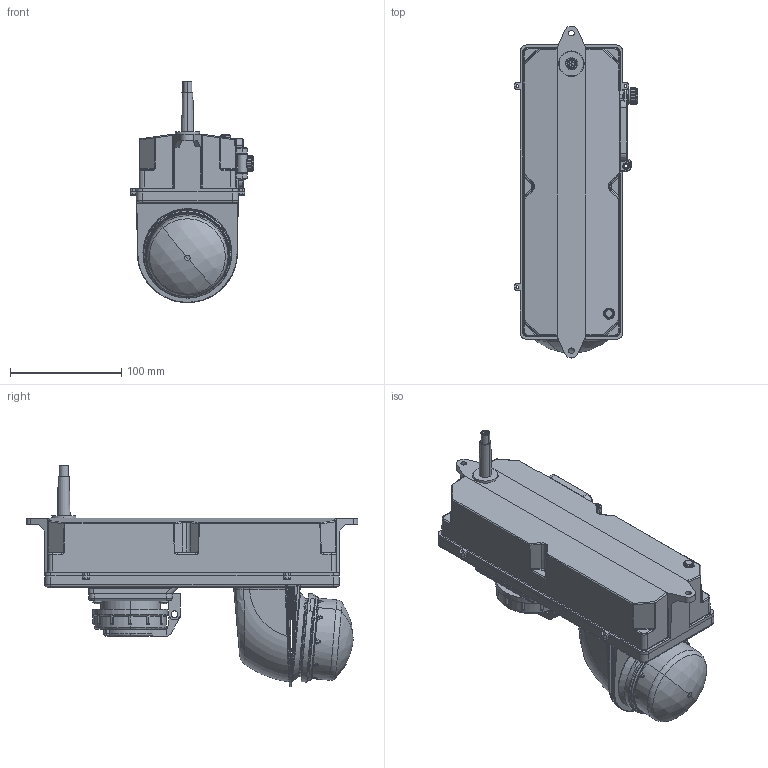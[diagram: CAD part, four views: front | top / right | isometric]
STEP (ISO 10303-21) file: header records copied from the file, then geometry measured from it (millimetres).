
FILE_DESCRIPTION (( 'STEP AP214' ), '1' );
FILE_NAME ('Maststeckdose HSW4062 mit Zhaga-Modul und Schuko.STEP', '2022-02-22T09:38:39', ( '' ), ( '' ), 'SwSTEP 2.0', 'SolidWorks 2021', '' );
FILE_SCHEMA (( 'AUTOMOTIVE_DESIGN' ));
Length unit declared in the file: millimetre
Products named in the file (1): Maststeckdose HSW4062 mit Zhaga-Modul und Schuko
Bounding box: 111.3 x 299 x 199.15 mm (x, y, z)
Surface area: 152368.6 mm2 (no closed solid volume)
Topology: 0 solids, 32 shells, 1110 faces, 3880 edges, 2647 vertices
Faces by surface type: cylinder 371, plane 284, bspline 179, torus 141, cone 96, sphere 39
Entity records: 72367 total; most frequent: CARTESIAN_POINT 29863, ORIENTED_EDGE 6125, DIRECTION 5800, EDGE_CURVE 3867, VERTEX_POINT 2646, AXIS2_PLACEMENT_3D 2227, VECTOR 1346, LINE 1346
